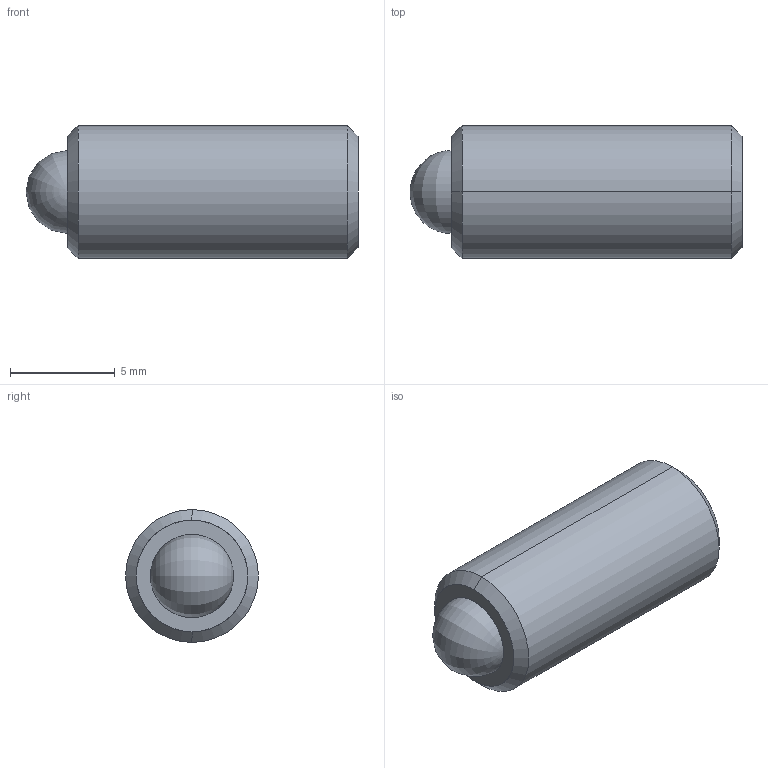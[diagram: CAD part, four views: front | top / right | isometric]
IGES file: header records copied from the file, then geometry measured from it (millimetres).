
Start section: SolidWorks IGES file using analytic representation for surfaces
Global section: file name: C:\Users\workpc\Desktop\KMA Solidworks\TS250-100 Series\TS250-100-625.IGS; native system: SolidWorks 2013; preprocessor: SolidWorks 2013; author: workpc; date: 130211.181402; units: inch
Bounding box: 15.87 x 6.35 x 6.35 mm (x, y, z)
Surface area: 420.9 mm2 (no closed solid volume)
Topology: 0 solids, 0 shells, 20 faces, 204 edges, 200 vertices
Faces by surface type: revolution 10, bspline 10
